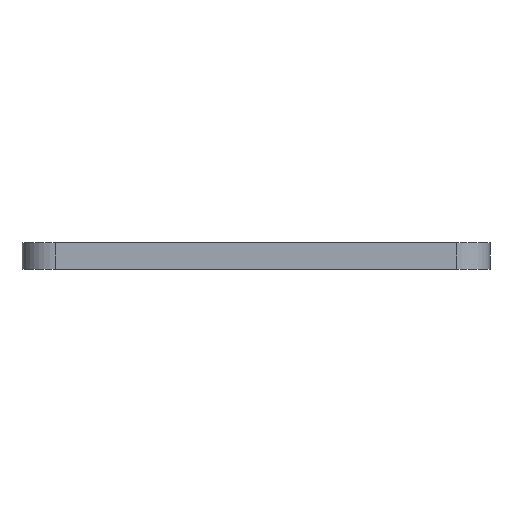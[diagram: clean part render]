
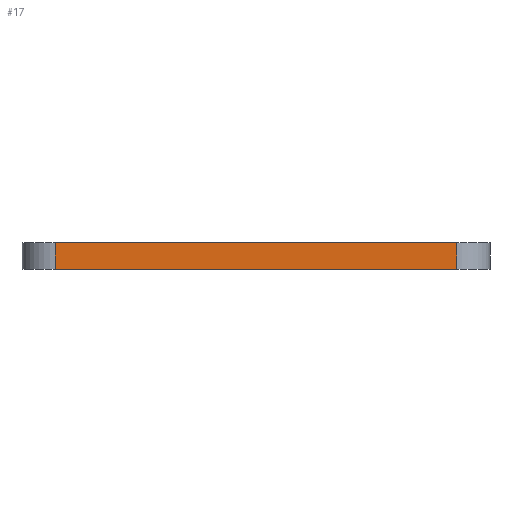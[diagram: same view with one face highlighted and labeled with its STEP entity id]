
A CAD part, left-side view. The second image highlights one B-rep face of the part: STEP entity #17.
In plain terms, the highlighted planar face has unit normal (-1, 0, 0).
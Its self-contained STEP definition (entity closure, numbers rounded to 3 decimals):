
#17 = ADVANCED_FACE('',(#18),#32,.F.);
#18 = FACE_BOUND('',#19,.F.);
#19 = EDGE_LOOP('',(#20,#55,#83,#111));
#20 = ORIENTED_EDGE('',*,*,#21,.F.);
#21 = EDGE_CURVE('',#22,#24,#26,.T.);
#22 = VERTEX_POINT('',#23);
#23 = CARTESIAN_POINT('',(0.,3.,2.4));
#24 = VERTEX_POINT('',#25);
#25 = CARTESIAN_POINT('',(0.,39.,2.4));
#26 = SURFACE_CURVE('',#27,(#31,#43),.PCURVE_S1.);
#27 = LINE('',#28,#29);
#28 = CARTESIAN_POINT('',(0.,0.,2.4));
#29 = VECTOR('',#30,1.);
#30 = DIRECTION('',(0.,1.,0.));
#31 = PCURVE('',#32,#37);
#32 = PLANE('',#33);
#33 = AXIS2_PLACEMENT_3D('',#34,#35,#36);
#34 = CARTESIAN_POINT('',(0.,0.,0.));
#35 = DIRECTION('',(1.,0.,0.));
#36 = DIRECTION('',(0.,0.,1.));
#37 = DEFINITIONAL_REPRESENTATION('',(#38),#42);
#38 = LINE('',#39,#40);
#39 = CARTESIAN_POINT('',(2.4,0.));
#40 = VECTOR('',#41,1.);
#41 = DIRECTION('',(0.,-1.));
#42 = ( GEOMETRIC_REPRESENTATION_CONTEXT(2) 
PARAMETRIC_REPRESENTATION_CONTEXT() REPRESENTATION_CONTEXT('2D SPACE',''
  ) );
#43 = PCURVE('',#44,#49);
#44 = PLANE('',#45);
#45 = AXIS2_PLACEMENT_3D('',#46,#47,#48);
#46 = CARTESIAN_POINT('',(0.,0.,2.4));
#47 = DIRECTION('',(0.,0.,1.));
#48 = DIRECTION('',(1.,0.,0.));
#49 = DEFINITIONAL_REPRESENTATION('',(#50),#54);
#50 = LINE('',#51,#52);
#51 = CARTESIAN_POINT('',(0.,0.));
#52 = VECTOR('',#53,1.);
#53 = DIRECTION('',(0.,1.));
#54 = ( GEOMETRIC_REPRESENTATION_CONTEXT(2) 
PARAMETRIC_REPRESENTATION_CONTEXT() REPRESENTATION_CONTEXT('2D SPACE',''
  ) );
#55 = ORIENTED_EDGE('',*,*,#56,.F.);
#56 = EDGE_CURVE('',#57,#22,#59,.T.);
#57 = VERTEX_POINT('',#58);
#58 = CARTESIAN_POINT('',(0.,3.,0.));
#59 = SURFACE_CURVE('',#60,(#64,#71),.PCURVE_S1.);
#60 = LINE('',#61,#62);
#61 = CARTESIAN_POINT('',(0.,3.,0.));
#62 = VECTOR('',#63,1.);
#63 = DIRECTION('',(0.,0.,1.));
#64 = PCURVE('',#32,#65);
#65 = DEFINITIONAL_REPRESENTATION('',(#66),#70);
#66 = LINE('',#67,#68);
#67 = CARTESIAN_POINT('',(0.,-3.));
#68 = VECTOR('',#69,1.);
#69 = DIRECTION('',(1.,0.));
#70 = ( GEOMETRIC_REPRESENTATION_CONTEXT(2) 
PARAMETRIC_REPRESENTATION_CONTEXT() REPRESENTATION_CONTEXT('2D SPACE',''
  ) );
#71 = PCURVE('',#72,#77);
#72 = CYLINDRICAL_SURFACE('',#73,3.);
#73 = AXIS2_PLACEMENT_3D('',#74,#75,#76);
#74 = CARTESIAN_POINT('',(3.,3.,0.));
#75 = DIRECTION('',(0.,0.,1.));
#76 = DIRECTION('',(-1.,-0.,0.));
#77 = DEFINITIONAL_REPRESENTATION('',(#78),#82);
#78 = LINE('',#79,#80);
#79 = CARTESIAN_POINT('',(0.,0.));
#80 = VECTOR('',#81,1.);
#81 = DIRECTION('',(0.,1.));
#82 = ( GEOMETRIC_REPRESENTATION_CONTEXT(2) 
PARAMETRIC_REPRESENTATION_CONTEXT() REPRESENTATION_CONTEXT('2D SPACE',''
  ) );
#83 = ORIENTED_EDGE('',*,*,#84,.T.);
#84 = EDGE_CURVE('',#57,#85,#87,.T.);
#85 = VERTEX_POINT('',#86);
#86 = CARTESIAN_POINT('',(0.,39.,0.));
#87 = SURFACE_CURVE('',#88,(#92,#99),.PCURVE_S1.);
#88 = LINE('',#89,#90);
#89 = CARTESIAN_POINT('',(0.,0.,0.));
#90 = VECTOR('',#91,1.);
#91 = DIRECTION('',(0.,1.,0.));
#92 = PCURVE('',#32,#93);
#93 = DEFINITIONAL_REPRESENTATION('',(#94),#98);
#94 = LINE('',#95,#96);
#95 = CARTESIAN_POINT('',(0.,0.));
#96 = VECTOR('',#97,1.);
#97 = DIRECTION('',(0.,-1.));
#98 = ( GEOMETRIC_REPRESENTATION_CONTEXT(2) 
PARAMETRIC_REPRESENTATION_CONTEXT() REPRESENTATION_CONTEXT('2D SPACE',''
  ) );
#99 = PCURVE('',#100,#105);
#100 = PLANE('',#101);
#101 = AXIS2_PLACEMENT_3D('',#102,#103,#104);
#102 = CARTESIAN_POINT('',(0.,0.,0.));
#103 = DIRECTION('',(0.,0.,1.));
#104 = DIRECTION('',(1.,0.,0.));
#105 = DEFINITIONAL_REPRESENTATION('',(#106),#110);
#106 = LINE('',#107,#108);
#107 = CARTESIAN_POINT('',(0.,0.));
#108 = VECTOR('',#109,1.);
#109 = DIRECTION('',(0.,1.));
#110 = ( GEOMETRIC_REPRESENTATION_CONTEXT(2) 
PARAMETRIC_REPRESENTATION_CONTEXT() REPRESENTATION_CONTEXT('2D SPACE',''
  ) );
#111 = ORIENTED_EDGE('',*,*,#112,.T.);
#112 = EDGE_CURVE('',#85,#24,#113,.T.);
#113 = SURFACE_CURVE('',#114,(#118,#125),.PCURVE_S1.);
#114 = LINE('',#115,#116);
#115 = CARTESIAN_POINT('',(0.,39.,0.));
#116 = VECTOR('',#117,1.);
#117 = DIRECTION('',(0.,0.,1.));
#118 = PCURVE('',#32,#119);
#119 = DEFINITIONAL_REPRESENTATION('',(#120),#124);
#120 = LINE('',#121,#122);
#121 = CARTESIAN_POINT('',(0.,-39.));
#122 = VECTOR('',#123,1.);
#123 = DIRECTION('',(1.,0.));
#124 = ( GEOMETRIC_REPRESENTATION_CONTEXT(2) 
PARAMETRIC_REPRESENTATION_CONTEXT() REPRESENTATION_CONTEXT('2D SPACE',''
  ) );
#125 = PCURVE('',#126,#131);
#126 = CYLINDRICAL_SURFACE('',#127,3.);
#127 = AXIS2_PLACEMENT_3D('',#128,#129,#130);
#128 = CARTESIAN_POINT('',(3.,39.,0.));
#129 = DIRECTION('',(0.,0.,1.));
#130 = DIRECTION('',(-1.,-0.,0.));
#131 = DEFINITIONAL_REPRESENTATION('',(#132),#136);
#132 = LINE('',#133,#134);
#133 = CARTESIAN_POINT('',(-0.,0.));
#134 = VECTOR('',#135,1.);
#135 = DIRECTION('',(-0.,1.));
#136 = ( GEOMETRIC_REPRESENTATION_CONTEXT(2) 
PARAMETRIC_REPRESENTATION_CONTEXT() REPRESENTATION_CONTEXT('2D SPACE',''
  ) );
